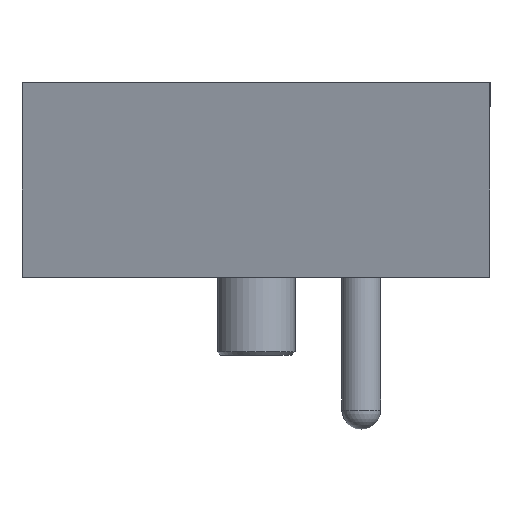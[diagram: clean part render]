
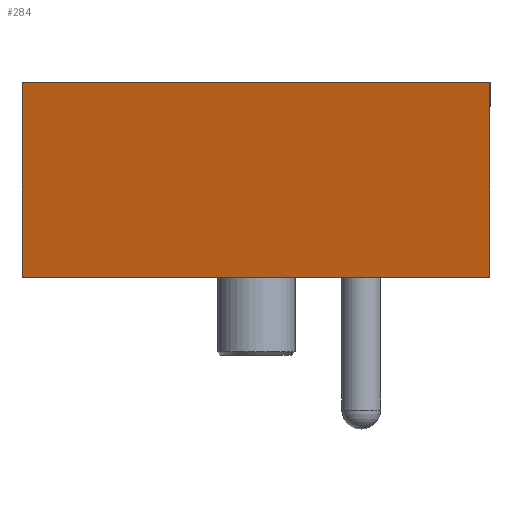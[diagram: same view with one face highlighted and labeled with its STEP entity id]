
A CAD part, left-side view. The second image highlights one B-rep face of the part: STEP entity #284.
In plain terms, the highlighted planar face has unit normal (-0.978, 0, -0.208) as drawn and (-0.978, 0, 0.208) by its records, which use the part's own axes.
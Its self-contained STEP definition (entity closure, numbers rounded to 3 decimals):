
#284=ADVANCED_FACE('',(#520),#521,.F.);
#520=FACE_OUTER_BOUND('',#743,.T.);
#521=PLANE('',#744);
#743=EDGE_LOOP('',(#1101,#1102,#1103,#1104));
#744=AXIS2_PLACEMENT_3D('',#1105,#1106,#1107);
#1101=ORIENTED_EDGE('',*,*,#1439,.T.);
#1102=ORIENTED_EDGE('',*,*,#1448,.F.);
#1103=ORIENTED_EDGE('',*,*,#1423,.F.);
#1104=ORIENTED_EDGE('',*,*,#1444,.T.);
#1105=CARTESIAN_POINT('',(-25.0,-13.444,0.0));
#1106=DIRECTION('',(0.978,0.0,-0.208));
#1107=DIRECTION('',(-0.208,0.0,-0.978));
#1423=EDGE_CURVE('',#1657,#1658,#1659,.T.);
#1439=EDGE_CURVE('',#1685,#1686,#1687,.T.);
#1444=EDGE_CURVE('',#1657,#1685,#1694,.T.);
#1448=EDGE_CURVE('',#1658,#1686,#1698,.T.);
#1657=VERTEX_POINT('',#1956);
#1658=VERTEX_POINT('',#1957);
#1659=LINE('',#1958,#1959);
#1685=VERTEX_POINT('',#1993);
#1686=VERTEX_POINT('',#1994);
#1687=LINE('',#1995,#1996);
#1694=LINE('',#2006,#2007);
#1698=LINE('',#2013,#2014);
#1956=CARTESIAN_POINT('',(-23.937,-7.444,5.0));
#1957=CARTESIAN_POINT('',(-23.937,-19.444,5.0));
#1958=CARTESIAN_POINT('',(-23.937,-13.444,5.0));
#1959=VECTOR('',#2249,1.0);
#1993=CARTESIAN_POINT('',(-25.0,-7.444,0.0));
#1994=CARTESIAN_POINT('',(-25.0,-19.444,0.0));
#1995=CARTESIAN_POINT('',(-25.0,-13.444,0.0));
#1996=VECTOR('',#2276,1.0);
#2006=CARTESIAN_POINT('',(-25.0,-7.444,0.0));
#2007=VECTOR('',#2280,1.0);
#2013=CARTESIAN_POINT('',(-23.983,-19.444,4.784));
#2014=VECTOR('',#2283,1.0);
#2249=DIRECTION('',(0.0,-1.0,0.0));
#2276=DIRECTION('',(0.0,-1.0,0.0));
#2280=DIRECTION('',(-0.208,0.0,-0.978));
#2283=DIRECTION('',(-0.208,0.0,-0.978));
